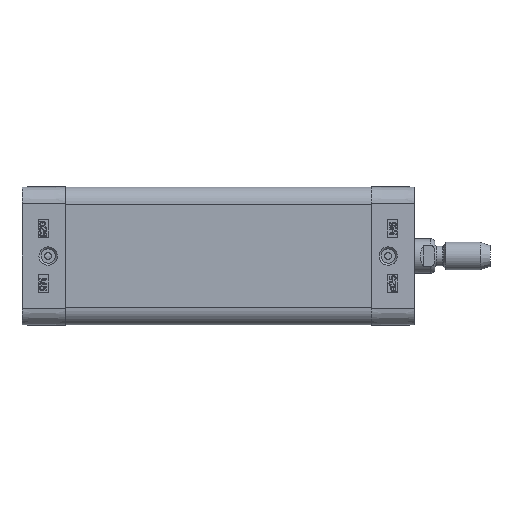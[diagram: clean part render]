
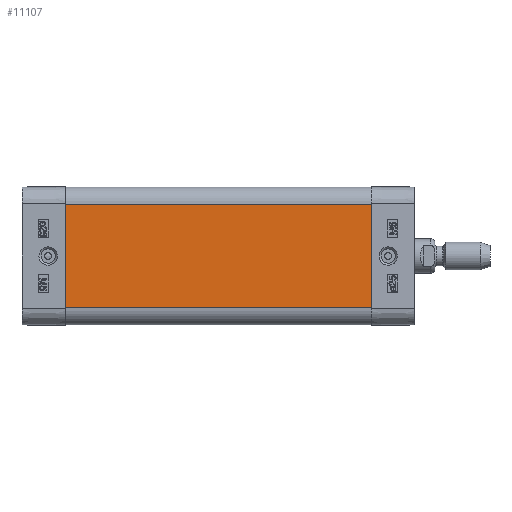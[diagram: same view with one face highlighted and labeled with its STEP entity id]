
A CAD part, left-side view. The second image highlights one B-rep face of the part: STEP entity #11107.
In plain terms, the highlighted planar face has unit normal (-1, 0, 0).
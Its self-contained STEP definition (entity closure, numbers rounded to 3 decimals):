
#8889=CARTESIAN_POINT('',(-20.,-89.0,15.0));
#8890=VERTEX_POINT('',#8889);
#8898=CARTESIAN_POINT('',(-20.,-89.0,-15.));
#8899=VERTEX_POINT('',#8898);
#8900=CARTESIAN_POINT('',(-20.,-89.0,-15.));
#8901=DIRECTION('',(0.0,0.0,1.0));
#8902=VECTOR('',#8901,30.);
#8903=LINE('',#8900,#8902);
#8904=EDGE_CURVE('',#8899,#8890,#8903,.T.);
#10035=CARTESIAN_POINT('',(-20.,0.0,15.0));
#10036=VERTEX_POINT('',#10035);
#10044=CARTESIAN_POINT('',(-20.,0.0,15.0));
#10045=DIRECTION('',(0.0,-1.0,0.0));
#10046=VECTOR('',#10045,89.0);
#10047=LINE('',#10044,#10046);
#10048=EDGE_CURVE('',#10036,#8890,#10047,.T.);
#11072=CARTESIAN_POINT('',(-20.,0.0,-15.));
#11073=VERTEX_POINT('',#11072);
#11074=CARTESIAN_POINT('',(-20.,0.0,-15.));
#11075=DIRECTION('',(0.0,-1.0,0.0));
#11076=VECTOR('',#11075,89.0);
#11077=LINE('',#11074,#11076);
#11078=EDGE_CURVE('',#11073,#8899,#11077,.T.);
#11091=CARTESIAN_POINT('',(-20.,0.0,-15.));
#11092=DIRECTION('',(-1.0,0.0,0.0));
#11093=DIRECTION('',(0.0,0.0,1.0));
#11094=AXIS2_PLACEMENT_3D('',#11091,#11092,#11093);
#11095=PLANE('',#11094);
#11096=ORIENTED_EDGE('',*,*,#8904,.T.);
#11097=ORIENTED_EDGE('',*,*,#10048,.F.);
#11098=CARTESIAN_POINT('',(-20.,0.0,-15.));
#11099=DIRECTION('',(0.0,0.0,1.0));
#11100=VECTOR('',#11099,30.);
#11101=LINE('',#11098,#11100);
#11102=EDGE_CURVE('',#11073,#10036,#11101,.T.);
#11103=ORIENTED_EDGE('',*,*,#11102,.F.);
#11104=ORIENTED_EDGE('',*,*,#11078,.T.);
#11105=EDGE_LOOP('',(#11096,#11097,#11103,#11104));
#11106=FACE_OUTER_BOUND('',#11105,.T.);
#11107=ADVANCED_FACE('',(#11106),#11095,.T.);
